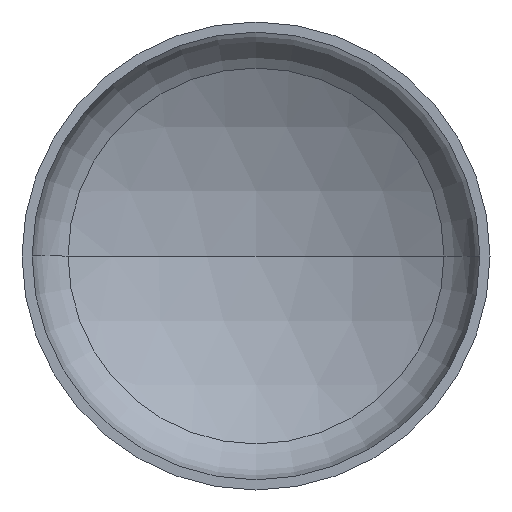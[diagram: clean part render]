
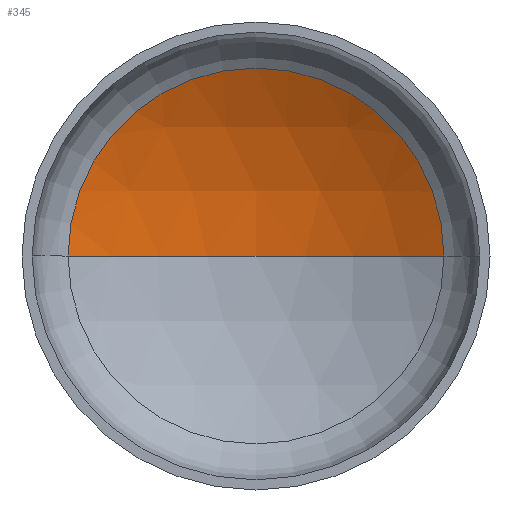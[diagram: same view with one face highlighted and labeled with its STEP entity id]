
A CAD part, front view. The second image highlights one B-rep face of the part: STEP entity #345.
In plain terms, the highlighted spherical face has radius 1920 mm.
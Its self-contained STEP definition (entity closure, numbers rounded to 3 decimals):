
#7 = CARTESIAN_POINT ( 'NONE',  ( 0., 440.015, 0. ) ) ;
#10 = AXIS2_PLACEMENT_3D ( 'NONE', #319, #277, #121 ) ;
#12 = DIRECTION ( 'NONE',  ( 1., 0., 0. ) ) ;
#21 = EDGE_LOOP ( 'NONE', ( #34, #119, #37 ) ) ;
#34 = ORIENTED_EDGE ( 'NONE', *, *, #177, .F. ) ;
#37 = ORIENTED_EDGE ( 'NONE', *, *, #138, .T. ) ;
#44 = AXIS2_PLACEMENT_3D ( 'NONE', #274, #272, #291 ) ;
#47 = AXIS2_PLACEMENT_3D ( 'NONE', #228, #239, #237 ) ;
#50 = VERTEX_POINT ( 'NONE', #294 ) ;
#52 = AXIS2_PLACEMENT_3D ( 'NONE', #7, #157, #12 ) ;
#96 = CIRCLE ( 'NONE', #47, 1920. ) ;
#110 = VERTEX_POINT ( 'NONE', #338 ) ;
#119 = ORIENTED_EDGE ( 'NONE', *, *, #160, .T. ) ;
#121 = DIRECTION ( 'NONE',  ( -1., 0., 0. ) ) ;
#138 = EDGE_CURVE ( 'NONE', #404, #50, #207, .T. ) ;
#157 = DIRECTION ( 'NONE',  ( 0., -1., 0. ) ) ;
#160 = EDGE_CURVE ( 'NONE', #110, #404, #96, .T. ) ;
#177 = EDGE_CURVE ( 'NONE', #110, #50, #254, .T. ) ;
#207 = CIRCLE ( 'NONE', #52, 963.716 ) ;
#228 = CARTESIAN_POINT ( 'NONE',  ( 0., -1220.603, 0. ) ) ;
#237 = DIRECTION ( 'NONE',  ( -1., 0., 0. ) ) ;
#239 = DIRECTION ( 'NONE',  ( 0., 0., -1. ) ) ;
#254 = CIRCLE ( 'NONE', #44, 1920. ) ;
#272 = DIRECTION ( 'NONE',  ( 0., 0., 1. ) ) ;
#274 = CARTESIAN_POINT ( 'NONE',  ( 0., -1220.603, 0. ) ) ;
#277 = DIRECTION ( 'NONE',  ( 0., 0., -1. ) ) ;
#291 = DIRECTION ( 'NONE',  ( 1., 0., 0. ) ) ;
#294 = CARTESIAN_POINT ( 'NONE',  ( -963.716, 440.015, 0. ) ) ;
#319 = CARTESIAN_POINT ( 'NONE',  ( 0., -1220.603, 0. ) ) ;
#338 = CARTESIAN_POINT ( 'NONE',  ( 0., 699.397, 0. ) ) ;
#345 = ADVANCED_FACE ( 'NONE', ( #410 ), #406, .F. ) ;
#376 = CARTESIAN_POINT ( 'NONE',  ( 963.716, 440.015, 0. ) ) ;
#404 = VERTEX_POINT ( 'NONE', #376 ) ;
#406 = SPHERICAL_SURFACE ( 'NONE', #10, 1920. ) ;
#410 = FACE_OUTER_BOUND ( 'NONE', #21, .T. ) ;
